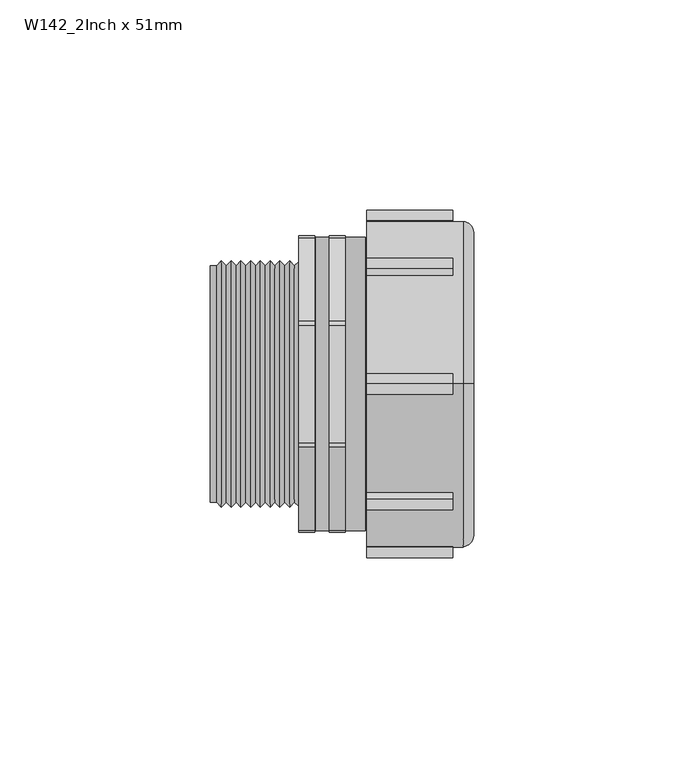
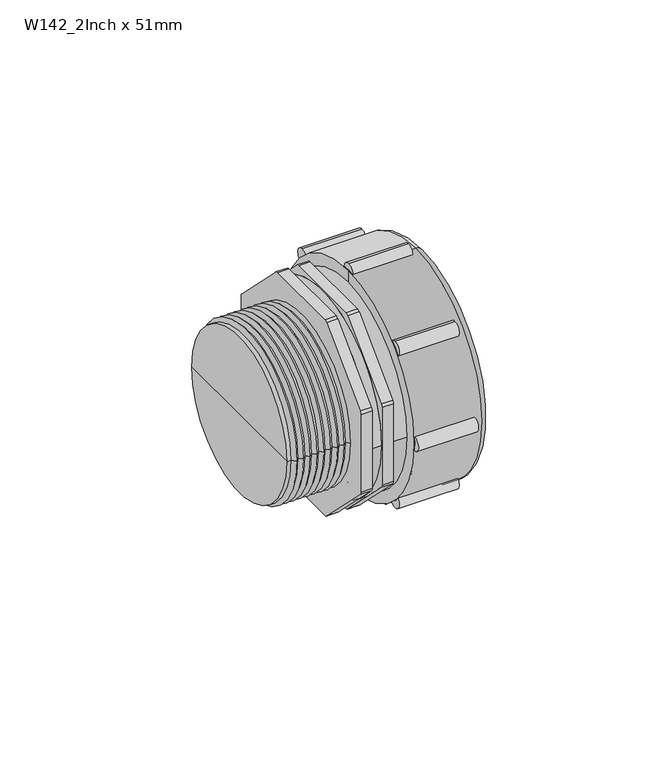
"""IFC4 building model written with IfcOpenShell, lengths in millimetres: pipe fitting geometry, Durapipe_PipeFitting_VulcatheneMechanical_MItoPipeCoupler_W14 : W142_2Inch x 51mm."""

from ifc_helpers import new_model, si_unit, point, frame, frame_2d, origin, place, context, project, spatial, polyline, circle_curve, ellipse_curve, trimmed, segment, composite_curve, outline, extrude, source, transform, mapped, element, save
from ifc_brep_helpers import plane_surface, cylinder_surface, revolved_surface, advanced_brep


def w142_2inch_x_51mm_82494a64(model_context):
    return source(origin(), model_context, "Body", "SolidModel", [
        advanced_brep(
        [(27.4, -22.839549, 22.839549), (27.4, 22.839549, -22.839549), (27.4, 21.2839141, -21.2839141), (27.4, -21.2839141, 21.2839141), (21.8, -22.3445743, 22.3445743), (21.8, 22.3445743, -22.3445743), (20.4, -21.9203102, 21.9203102), (20.4, 21.9203102, -21.9203102), (21.8, 21.9203102, -21.9203102), (21.8, -21.9203102, 21.9203102), (20.4, -20.9303607, 20.9303607), (20.4, 20.9303607, -20.9303607), (22.7, -20.9303607, 20.9303607), (22.7, 20.9303607, -20.9303607), (22.7, -20.647518, 20.647518), (22.7, 20.647518, -20.647518), (24.9, -21.2839141, 21.2839141), (24.9, 21.2839141, -21.2839141), (24.9, 20.647518, -20.647518), (24.9, -20.647518, 20.647518)],
        [
            (0, 1, circle_curve(frame((27.4, 0.0, 0.0), z_axis=(1.0, 0.0, 0.0), x_axis=(0.0, 0.7071067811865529, -0.7071067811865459)), 32.3)),
            (1, 2),
            (2, 3, circle_curve(frame((27.4, 0.0, 0.0), z_axis=(-1.0, 0.0, 0.0), x_axis=(0.0, 0.7071067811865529, -0.7071067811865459)), 30.1)),
            (3, 0),
            (1, 0, circle_curve(frame((27.4, 0.0, 0.0), z_axis=(1.0, 0.0, 0.0), x_axis=(0.0, 0.7071067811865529, -0.7071067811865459)), 32.3)),
            (3, 2, circle_curve(frame((27.4, 0.0, 0.0), z_axis=(-1.0, 0.0, 0.0), x_axis=(0.0, 0.7071067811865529, -0.7071067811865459)), 30.1)),
            (4, 5, circle_curve(frame((21.8, 0.0, 0.0), z_axis=(1.0, 0.0, 0.0), x_axis=(0.0, 0.7071067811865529, -0.7071067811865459)), 31.6)),
            (5, 1),
            (0, 4),
            (5, 4, circle_curve(frame((21.8, 0.0, 0.0), z_axis=(1.0, 0.0, 0.0), x_axis=(0.0, 0.7071067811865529, -0.7071067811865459)), 31.6)),
            (6, 7, circle_curve(frame((20.4, 0.0, 0.0), z_axis=(1.0, 0.0, 0.0), x_axis=(0.0, 0.7071067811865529, -0.7071067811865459)), 31.0)),
            (7, 8),
            (8, 9, circle_curve(frame((21.8, 0.0, 0.0), z_axis=(-1.0, 0.0, 0.0), x_axis=(0.0, 0.7071067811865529, -0.7071067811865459)), 31.0)),
            (9, 6),
            (7, 6, circle_curve(frame((20.4, 0.0, 0.0), z_axis=(1.0, 0.0, 0.0), x_axis=(0.0, 0.7071067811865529, -0.7071067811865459)), 31.0)),
            (9, 8, circle_curve(frame((21.8, 0.0, 0.0), z_axis=(-1.0, 0.0, 0.0), x_axis=(0.0, 0.7071067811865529, -0.7071067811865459)), 31.0)),
            (6, 10),
            (10, 11, circle_curve(frame((20.4, 0.0, 0.0), z_axis=(1.0, 0.0, 0.0), x_axis=(0.0, 0.7071067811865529, -0.7071067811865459)), 29.6)),
            (11, 7),
            (11, 10, circle_curve(frame((20.4, 0.0, 0.0), z_axis=(1.0, 0.0, 0.0), x_axis=(0.0, 0.7071067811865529, -0.7071067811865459)), 29.6)),
            (10, 12),
            (12, 13, circle_curve(frame((22.7, 0.0, 0.0), z_axis=(1.0, 0.0, 0.0), x_axis=(0.0, 0.7071067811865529, -0.7071067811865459)), 29.6)),
            (13, 11),
            (13, 12, circle_curve(frame((22.7, 0.0, 0.0), z_axis=(1.0, 0.0, 0.0), x_axis=(0.0, 0.7071067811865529, -0.7071067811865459)), 29.6)),
            (12, 14),
            (14, 15, circle_curve(frame((22.7, 0.0, 0.0), z_axis=(1.0, 0.0, 0.0), x_axis=(0.0, 0.7071067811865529, -0.7071067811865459)), 29.2)),
            (15, 13),
            (15, 14, circle_curve(frame((22.7, 0.0, 0.0), z_axis=(1.0, 0.0, 0.0), x_axis=(0.0, 0.7071067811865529, -0.7071067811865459)), 29.2)),
            (16, 17, circle_curve(frame((24.9, 0.0, 0.0), z_axis=(1.0, 0.0, 0.0), x_axis=(0.0, 0.7071067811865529, -0.7071067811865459)), 30.1)),
            (17, 18),
            (18, 19, circle_curve(frame((24.9, 0.0, 0.0), z_axis=(-1.0, 0.0, 0.0), x_axis=(0.0, 0.7071067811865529, -0.7071067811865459)), 29.2)),
            (19, 16),
            (17, 16, circle_curve(frame((24.9, 0.0, 0.0), z_axis=(1.0, 0.0, 0.0), x_axis=(0.0, 0.7071067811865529, -0.7071067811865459)), 30.1)),
            (19, 18, circle_curve(frame((24.9, 0.0, 0.0), z_axis=(-1.0, 0.0, 0.0), x_axis=(0.0, 0.7071067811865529, -0.7071067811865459)), 29.2)),
            (2, 17),
            (16, 3),
            (14, 19),
            (18, 15),
            (4, 9),
            (8, 5),
        ],
        [
            plane_surface(frame((27.4, 0.0, 0.0), z_axis=(1.0, 0.0, 0.0), x_axis=(0.0, 0.707106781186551, -0.707106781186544))),
            revolved_surface(polyline([(27.4, 22.839549, -22.839549), (21.8, 22.3445743, -22.3445743)]), (32.4, 0.0, 0.0), (-1.0000000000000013, 0.0, 0.0)),
            cylinder_surface(frame((18.3293443, 0.0, 0.0), z_axis=(-1.0000000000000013, 0.0, 0.0), x_axis=(0.0, 0.7071067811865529, -0.7071067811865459)), 31.0),
            plane_surface(frame((20.4, 0.0, 0.0), z_axis=(-1.0, 0.0, 0.0), x_axis=(0.0, 0.707106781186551, -0.707106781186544))),
            revolved_surface(polyline([(20.400000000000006, 20.930360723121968, -20.93036072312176), (22.700000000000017, 20.930360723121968, -20.93036072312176)]), (16.907009, 0.0, 0.0), (-1.0000000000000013, 0.0, 0.0)),
            plane_surface(frame((22.7, 0.0, 0.0), z_axis=(-1.0, 0.0, 0.0), x_axis=(0.0, 0.707106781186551, -0.707106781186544))),
            plane_surface(frame((24.9, 0.0, 0.0), z_axis=(1.0, 0.0, 0.0), x_axis=(0.0, 0.707106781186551, -0.707106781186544))),
            revolved_surface(polyline([(24.899999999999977, 21.283914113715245, -21.28391411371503), (27.399999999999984, 21.283914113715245, -21.28391411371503)]), (32.4, 0.0, 0.0), (-1.0000000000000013, 0.0, 0.0)),
            revolved_surface(polyline([(22.69999999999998, 20.647518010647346, -20.64751801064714), (24.899999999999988, 20.647518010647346, -20.64751801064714)]), (28.9661924, 0.0, 0.0), (-1.0000000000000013, 0.0, 0.0)),
            plane_surface(frame((21.8, 0.0, 0.0), z_axis=(-1.0, 0.0, 0.0), x_axis=(0.0, 0.707106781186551, -0.707106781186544))),
        ],
        [
            (0, [[1, 2, 3, 4]]),
            (0, [[-2, 5, -4, 6]]),
            (1, [[7, 8, -1, 9]]),
            (1, [[10, -9, -5, -8]]),
            (2, [[11, 12, 13, 14]]),
            (2, [[-12, 15, -14, 16]]),
            (3, [[-11, 17, 18, 19]]),
            (3, [[-15, -19, 20, -17]]),
            (4, [[21, 22, 23, -18]]),
            (4, [[-21, -20, -23, 24]]),
            (5, [[-22, 25, 26, 27]]),
            (5, [[-24, -27, 28, -25]]),
            (6, [[29, 30, 31, 32]]),
            (6, [[33, -32, 34, -30]]),
            (7, [[-3, 35, -29, 36]]),
            (7, [[-6, -36, -33, -35]]),
            (8, [[37, -31, 38, -26]]),
            (8, [[-37, -28, -38, -34]]),
            (9, [[-7, 39, -13, 40]]),
            (9, [[-10, -40, -16, -39]]),
        ],
    ),
        advanced_brep(
        [(5.9, 0.0, 38.8), (5.9, 0.0, -38.8), (28.8, 0.0, -38.8), (28.8, 0.0, 38.8), (5.9, 0.0, 33.0), (5.9, 0.0, -33.0), (31.3, 0.0, 36.3), (31.3, 0.0, -36.3), (31.3, 0.0, -31.0), (31.3, 0.0, 31.0), (27.4, 0.0, 33.0), (27.4, 0.0, -33.0), (27.4, 0.0, 31.0), (27.4, 0.0, -31.0)],
        [
            (0, 1, circle_curve(frame((5.9, 0.0, 0.0), z_axis=(1.0, 0.0, 0.0), x_axis=(0.0, 0.0, -1.0000000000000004)), 38.8)),
            (1, 2),
            (2, 3, circle_curve(frame((28.8, 0.0, 0.0), z_axis=(-1.0, 0.0, 0.0), x_axis=(0.0, 0.0, -1.0000000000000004)), 38.8)),
            (3, 0),
            (1, 0, circle_curve(frame((5.9, 0.0, 0.0), z_axis=(1.0, 0.0, 0.0), x_axis=(0.0, 0.0, -1.0000000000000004)), 38.8)),
            (3, 2, circle_curve(frame((28.8, 0.0, 0.0), z_axis=(-1.0, 0.0, 0.0), x_axis=(0.0, 0.0, -1.0000000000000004)), 38.8)),
            (4, 5, circle_curve(frame((5.9, 0.0, 0.0), z_axis=(1.0, 0.0, 0.0), x_axis=(0.0, 0.0, -1.0000000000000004)), 33.0)),
            (5, 1),
            (0, 4),
            (5, 4, circle_curve(frame((5.9, 0.0, 0.0), z_axis=(1.0, 0.0, 0.0), x_axis=(0.0, 0.0, -1.0000000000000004)), 33.0)),
            (6, 7, circle_curve(frame((31.3, 0.0, 0.0), z_axis=(1.0, 0.0, 0.0), x_axis=(0.0, 0.0, -1.0000000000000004)), 36.3)),
            (7, 8),
            (8, 9, circle_curve(frame((31.3, 0.0, 0.0), z_axis=(-1.0, 0.0, 0.0), x_axis=(0.0, 0.0, -1.0000000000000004)), 31.0)),
            (9, 6),
            (7, 6, circle_curve(frame((31.3, 0.0, 0.0), z_axis=(1.0, 0.0, 0.0), x_axis=(0.0, 0.0, -1.0000000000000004)), 36.3)),
            (9, 8, circle_curve(frame((31.3, 0.0, 0.0), z_axis=(-1.0, 0.0, 0.0), x_axis=(0.0, 0.0, -1.0000000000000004)), 31.0)),
            (2, 7, circle_curve(frame((28.8, 0.0, -36.3), z_axis=(0.0, -1.0000000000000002, 0.0), x_axis=(1.0000000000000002, 0.0, 0.0)), 2.5)),
            (6, 3, circle_curve(frame((28.8, 0.0, 36.3), z_axis=(0.0, -1.0000000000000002, 0.0), x_axis=(1.0000000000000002, 0.0, 0.0)), 2.5)),
            (10, 11, circle_curve(frame((27.4, 0.0, 0.0), z_axis=(1.0, 0.0, 0.0), x_axis=(0.0, 0.0, -1.0000000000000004)), 33.0)),
            (11, 5),
            (4, 10),
            (11, 10, circle_curve(frame((27.4, 0.0, 0.0), z_axis=(1.0, 0.0, 0.0), x_axis=(0.0, 0.0, -1.0000000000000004)), 33.0)),
            (12, 13, circle_curve(frame((27.4, 0.0, 0.0), z_axis=(1.0, 0.0, 0.0), x_axis=(0.0, 0.0, -1.0000000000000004)), 31.0)),
            (13, 11),
            (10, 12),
            (13, 12, circle_curve(frame((27.4, 0.0, 0.0), z_axis=(1.0, 0.0, 0.0), x_axis=(0.0, 0.0, -1.0000000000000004)), 31.0)),
            (8, 13),
            (12, 9),
        ],
        [
            cylinder_surface(frame((1592.1018184, 0.0, 0.0), z_axis=(-1.0000000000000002, 0.0, 0.0), x_axis=(0.0, 0.0, -1.0000000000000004)), 38.8),
            plane_surface(frame((5.9, 0.0, 0.0), z_axis=(-1.0, 0.0, 0.0), x_axis=(0.0, 0.0, -1.0))),
            plane_surface(frame((31.3, 0.0, 0.0), z_axis=(1.0, 0.0, 0.0), x_axis=(0.0, 0.0, -1.0))),
            revolved_surface(trimmed(ellipse_curve(frame((28.8, 0.0, -36.3), z_axis=(0.0, 1.0000000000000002, 0.0), x_axis=(1.0000000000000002, 0.0, 0.0)), 2.5, 2.5), [point((31.3, 0.0, -36.3))], [point((28.8, 0.0, -38.8))], True, "CARTESIAN"), (1592.1018184, 0.0, 0.0), (-1.0000000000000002, 0.0, 0.0)),
            revolved_surface(polyline([(5.8999999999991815, 0.0, -33.000000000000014), (27.39999999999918, 0.0, -33.000000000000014)]), (1592.1018184, 0.0, 0.0), (-1.0000000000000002, 0.0, 0.0)),
            plane_surface(frame((27.4, 0.0, 0.0), z_axis=(-1.0, 0.0, 0.0), x_axis=(0.0, 0.0, -1.0))),
            revolved_surface(polyline([(27.39999999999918, 0.0, -31.000000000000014), (31.299999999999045, 0.0, -31.000000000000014)]), (1592.1018184, 0.0, 0.0), (-1.0000000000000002, 0.0, 0.0)),
        ],
        [
            (0, [[1, 2, 3, 4]]),
            (0, [[5, -4, 6, -2]]),
            (1, [[7, 8, -1, 9]]),
            (1, [[10, -9, -5, -8]]),
            (2, [[11, 12, 13, 14]]),
            (2, [[15, -14, 16, -12]]),
            (3, [[-3, 17, -11, 18]]),
            (3, [[-6, -18, -15, -17]]),
            (4, [[19, 20, -7, 21]]),
            (4, [[22, -21, -10, -20]]),
            (5, [[23, 24, -19, 25]]),
            (5, [[26, -25, -22, -24]]),
            (6, [[-13, 27, -23, 28]]),
            (6, [[-16, -28, -26, -27]]),
        ],
    ),
        extrude(outline(composite_curve([segment(trimmed(circle_curve(frame_2d((38.8, 0.0)), 2.5), [point((38.8, 2.5))], [point((38.8, -2.5))], False, "CARTESIAN"), True, "CONTINUOUS"), segment(trimmed(circle_curve(frame_2d((38.8, 0.0)), 2.5), [point((38.8, -2.5))], [point((38.8, 2.5))], False, "CARTESIAN"), True, "CONTINUOUS")], self_intersect=False)), frame((5.9, 0.0, 0.0), z_axis=(1.0, 0.0, 0.0), x_axis=(0.0, 1.0, 0.0)), (0.0, 0.0, 1.0), 20.4),
        extrude(outline(composite_curve([segment(trimmed(circle_curve(frame_2d((27.4357431, -27.4357431)), 2.5), [point((27.4357431, -24.9357431))], [point((27.4357431, -29.9357431))], False, "CARTESIAN"), True, "CONTINUOUS"), segment(trimmed(circle_curve(frame_2d((27.4357431, -27.4357431)), 2.5), [point((27.4357431, -29.9357431))], [point((27.4357431, -24.9357431))], False, "CARTESIAN"), True, "CONTINUOUS")], self_intersect=False)), frame((5.9, 0.0, 0.0), z_axis=(1.0, 0.0, 0.0), x_axis=(0.0, 1.0, 0.0)), (0.0, 0.0, 1.0), 20.4),
        extrude(outline(composite_curve([segment(trimmed(circle_curve(frame_2d((0.0, -38.8)), 2.5), [point((0.0, -36.3))], [point((0.0, -41.3))], False, "CARTESIAN"), True, "CONTINUOUS"), segment(trimmed(circle_curve(frame_2d((0.0, -38.8)), 2.5), [point((0.0, -41.3))], [point((0.0, -36.3))], False, "CARTESIAN"), True, "CONTINUOUS")], self_intersect=False)), frame((5.9, 0.0, 0.0), z_axis=(1.0, 0.0, 0.0), x_axis=(0.0, 1.0, 0.0)), (0.0, 0.0, 1.0), 20.4),
        extrude(outline(composite_curve([segment(trimmed(circle_curve(frame_2d((-27.4357431, -27.4357431)), 2.5), [point((-27.4357431, -24.9357431))], [point((-27.4357431, -29.9357431))], False, "CARTESIAN"), True, "CONTINUOUS"), segment(trimmed(circle_curve(frame_2d((-27.4357431, -27.4357431)), 2.5), [point((-27.4357431, -29.9357431))], [point((-27.4357431, -24.9357431))], False, "CARTESIAN"), True, "CONTINUOUS")], self_intersect=False)), frame((5.9, 0.0, 0.0), z_axis=(1.0, 0.0, 0.0), x_axis=(0.0, 1.0, 0.0)), (0.0, 0.0, 1.0), 20.4),
        extrude(outline(composite_curve([segment(trimmed(circle_curve(frame_2d((-38.8, 0.0)), 2.5), [point((-38.8, 2.5))], [point((-38.8, -2.5))], False, "CARTESIAN"), True, "CONTINUOUS"), segment(trimmed(circle_curve(frame_2d((-38.8, 0.0)), 2.5), [point((-38.8, -2.5))], [point((-38.8, 2.5))], False, "CARTESIAN"), True, "CONTINUOUS")], self_intersect=False)), frame((5.9, 0.0, 0.0), z_axis=(1.0, 0.0, 0.0), x_axis=(0.0, 1.0, 0.0)), (0.0, 0.0, 1.0), 20.4),
        extrude(outline(composite_curve([segment(trimmed(circle_curve(frame_2d((-27.4357431, 27.4357431)), 2.5), [point((-27.4357431, 29.9357431))], [point((-27.4357431, 24.9357431))], False, "CARTESIAN"), True, "CONTINUOUS"), segment(trimmed(circle_curve(frame_2d((-27.4357431, 27.4357431)), 2.5), [point((-27.4357431, 24.9357431))], [point((-27.4357431, 29.9357431))], False, "CARTESIAN"), True, "CONTINUOUS")], self_intersect=False)), frame((5.9, 0.0, 0.0), z_axis=(1.0, 0.0, 0.0), x_axis=(0.0, 1.0, 0.0)), (0.0, 0.0, 1.0), 20.4),
        extrude(outline(composite_curve([segment(trimmed(circle_curve(frame_2d((0.0, 38.8)), 2.5), [point((0.0, 41.3))], [point((0.0, 36.3))], False, "CARTESIAN"), True, "CONTINUOUS"), segment(trimmed(circle_curve(frame_2d((0.0, 38.8)), 2.5), [point((0.0, 36.3))], [point((0.0, 41.3))], False, "CARTESIAN"), True, "CONTINUOUS")], self_intersect=False)), frame((5.9, 0.0, 0.0), z_axis=(1.0, 0.0, 0.0), x_axis=(0.0, 1.0, 0.0)), (0.0, 0.0, 1.0), 20.4),
        extrude(outline(composite_curve([segment(trimmed(circle_curve(frame_2d((27.4357431, 27.4357431)), 2.5), [point((27.4357431, 29.9357431))], [point((27.4357431, 24.9357431))], False, "CARTESIAN"), True, "CONTINUOUS"), segment(trimmed(circle_curve(frame_2d((27.4357431, 27.4357431)), 2.5), [point((27.4357431, 24.9357431))], [point((27.4357431, 29.9357431))], False, "CARTESIAN"), True, "CONTINUOUS")], self_intersect=False)), frame((5.9, 0.0, 0.0), z_axis=(1.0, 0.0, 0.0), x_axis=(0.0, 1.0, 0.0)), (0.0, 0.0, 1.0), 20.4),
        advanced_brep(
        [(-10.3, -15.0403679, 34.8106602), (-10.3, -13.9797077, 35.25), (-10.3, 13.9797077, 35.25), (-10.3, 15.0403679, 34.8106602), (-10.3, 34.8106602, 15.0403679), (-10.3, 35.25, 13.9797077), (-10.3, 35.25, -13.9797077), (-10.3, 34.8106602, -15.0403679), (-10.3, 15.0403679, -34.8106602), (-10.3, 13.9797077, -35.25), (-10.3, -13.9797077, -35.25), (-10.3, -15.0403679, -34.8106602), (-10.3, -34.8106602, -15.0403679), (-10.3, -35.25, -13.9797077), (-10.3, -35.25, 13.9797077), (-10.3, -34.8106602, 15.0403679), (-10.3, -29.1156954, 0.0), (-10.3, 29.1156954, 0.0), (-6.45, -15.0403679, 34.8106602), (-6.45, -34.8106602, 15.0403679), (-6.45, -35.25, 13.9797077), (-6.45, -35.25, -13.9797077), (-6.45, -34.8106602, -15.0403679), (-6.45, -15.0403679, -34.8106602), (-6.45, -13.9797077, -35.25), (-6.45, 13.9797077, -35.25), (-6.45, 15.0403679, -34.8106602), (-6.45, 34.8106602, -15.0403679), (-6.45, 35.25, -13.9797077), (-6.45, 35.25, 13.9797077), (-6.45, 34.8106602, 15.0403679), (-6.45, 15.0403679, 34.8106602), (-6.45, 13.9797077, 35.25), (-6.45, -13.9797077, 35.25), (-6.45, 29.2915153, 0.0), (-6.45, -29.2915153, 0.0), (0.8, -15.0403679, 34.8106602), (0.8, -34.8106602, 15.0403679), (0.8, -35.25, 13.9797077), (0.8, -35.25, -13.9797077), (0.8, -34.8106602, -15.0403679), (0.8, -15.0403679, -34.8106602), (0.8, -13.9797077, -35.25), (0.8, 13.9797077, -35.25), (0.8, 15.0403679, -34.8106602), (0.8, 34.8106602, -15.0403679), (0.8, 35.25, -13.9797077), (0.8, 35.25, 13.9797077), (0.8, 34.8106602, 15.0403679), (0.8, 15.0403679, 34.8106602), (0.8, 13.9797077, 35.25), (0.8, -13.9797077, 35.25), (0.8, 34.86, 0.0), (0.8, -34.86, 0.0), (-3.05, -15.0403679, 34.8106602), (-3.05, -13.9797077, 35.25), (-3.05, 13.9797077, 35.25), (-3.05, 15.0403679, 34.8106602), (-3.05, 34.8106602, 15.0403679), (-3.05, 35.25, 13.9797077), (-3.05, 35.25, -13.9797077), (-3.05, 34.8106602, -15.0403679), (-3.05, 15.0403679, -34.8106602), (-3.05, 13.9797077, -35.25), (-3.05, -13.9797077, -35.25), (-3.05, -15.0403679, -34.8106602), (-3.05, -34.8106602, -15.0403679), (-3.05, -35.25, -13.9797077), (-3.05, -35.25, 13.9797077), (-3.05, -34.8106602, 15.0403679), (-3.05, -34.86, 0.0), (-3.05, 34.86, 0.0), (-6.2, -29.2915153, 0.0), (-6.2, 29.2915153, 0.0), (-6.2, 34.86, 0.0), (-6.2, -34.86, 0.0), (-29.8, -28.1341141, 0.0), (-29.8, 28.1341141, 0.0), (-28.6425988, 29.2915153, 0.0), (-28.6425988, -29.2915153, 0.0), (-31.3, -28.1341141, 0.0), (-31.3, 28.1341141, 0.0), (-31.3, 0.0, 0.0), (5.57, -33.6998303, 0.0), (5.57, 33.6998303, 0.0), (6.0948472, 34.3035979, 0.0), (6.0948472, -34.3035979, 0.0), (5.57, -34.86, 0.0), (5.57, 34.86, 0.0), (-11.2815813, -28.1341141, 0.0), (-11.2815813, 28.1341141, 0.0), (-12.4389825, -29.2915153, 0.0), (-12.4389825, 29.2915153, 0.0), (-13.5963837, -28.1341141, 0.0), (-13.5963837, 28.1341141, 0.0), (-14.7537848, -29.2915153, 0.0), (-14.7537848, 29.2915153, 0.0), (-15.911186, -28.1341141, 0.0), (-15.911186, 28.1341141, 0.0), (-17.0685872, -29.2915153, 0.0), (-17.0685872, 29.2915153, 0.0), (-18.2259883, -28.1341141, 0.0), (-18.2259883, 28.1341141, 0.0), (-19.3833895, -29.2915153, 0.0), (-19.3833895, 29.2915153, 0.0), (-20.5407907, -28.1341141, 0.0), (-20.5407907, 28.1341141, 0.0), (-21.6981918, -29.2915153, 0.0), (-21.6981918, 29.2915153, 0.0), (-22.855593, -28.1341141, 0.0), (-22.855593, 28.1341141, 0.0), (-24.0129942, -29.2915153, 0.0), (-24.0129942, 29.2915153, 0.0), (-25.1703953, -28.1341141, 0.0), (-25.1703953, 28.1341141, 0.0), (-26.3277965, -29.2915153, 0.0), (-26.3277965, 29.2915153, 0.0), (-27.4851977, -28.1341141, 0.0), (-27.4851977, 28.1341141, 0.0), (6.0948472, 0.0, 0.0)],
        [
            (0, 1, circle_curve(frame((-10.3, -13.9797077, 33.75), z_axis=(-1.0, 0.0, 0.0), x_axis=(0.0, 1.0, 0.0)), 1.5)),
            (1, 2),
            (2, 3, circle_curve(frame((-10.3, 13.9797077, 33.75), z_axis=(-1.0, 0.0, 0.0), x_axis=(0.0, 1.0, 0.0)), 1.5)),
            (3, 4),
            (4, 5, circle_curve(frame((-10.3, 33.75, 13.9797077), z_axis=(-1.0, 0.0, 0.0), x_axis=(0.0, 1.0, 0.0)), 1.5)),
            (5, 6),
            (6, 7, circle_curve(frame((-10.3, 33.75, -13.9797077), z_axis=(-1.0, 0.0, 0.0), x_axis=(0.0, 1.0, 0.0)), 1.5)),
            (7, 8),
            (8, 9, circle_curve(frame((-10.3, 13.9797077, -33.75), z_axis=(-1.0, 0.0, 0.0), x_axis=(0.0, 1.0, 0.0)), 1.5)),
            (9, 10),
            (10, 11, circle_curve(frame((-10.3, -13.9797077, -33.75), z_axis=(-1.0, 0.0, 0.0), x_axis=(0.0, 1.0, 0.0)), 1.5)),
            (11, 12),
            (12, 13, circle_curve(frame((-10.3, -33.75, -13.9797077), z_axis=(-1.0, 0.0, 0.0), x_axis=(0.0, 1.0, 0.0)), 1.5)),
            (13, 14),
            (14, 15, circle_curve(frame((-10.3, -33.75, 13.9797077), z_axis=(-1.0, 0.0, 0.0), x_axis=(0.0, 1.0, 0.0)), 1.5)),
            (15, 0),
            (16, 17, circle_curve(frame((-10.3, 0.0, 0.0), z_axis=(1.0, 0.0, 0.0), x_axis=(0.0, 1.0, 0.0)), 29.1156954)),
            (17, 16, circle_curve(frame((-10.3, 0.0, 0.0), z_axis=(1.0, 0.0, 0.0), x_axis=(0.0, 1.0, 0.0)), 29.1156954)),
            (18, 19),
            (19, 20, circle_curve(frame((-6.45, -33.75, 13.9797077), z_axis=(1.0, 0.0, 0.0), x_axis=(0.0, 1.0, 0.0)), 1.5)),
            (20, 21),
            (21, 22, circle_curve(frame((-6.45, -33.75, -13.9797077), z_axis=(1.0, 0.0, 0.0), x_axis=(0.0, 1.0, 0.0)), 1.5)),
            (22, 23),
            (23, 24, circle_curve(frame((-6.45, -13.9797077, -33.75), z_axis=(1.0, 0.0, 0.0), x_axis=(0.0, 1.0, 0.0)), 1.5)),
            (24, 25),
            (25, 26, circle_curve(frame((-6.45, 13.9797077, -33.75), z_axis=(1.0, 0.0, 0.0), x_axis=(0.0, 1.0, 0.0)), 1.5)),
            (26, 27),
            (27, 28, circle_curve(frame((-6.45, 33.75, -13.9797077), z_axis=(1.0, 0.0, 0.0), x_axis=(0.0, 1.0, 0.0)), 1.5)),
            (28, 29),
            (29, 30, circle_curve(frame((-6.45, 33.75, 13.9797077), z_axis=(1.0, 0.0, 0.0), x_axis=(0.0, 1.0, 0.0)), 1.5)),
            (30, 31),
            (31, 32, circle_curve(frame((-6.45, 13.9797077, 33.75), z_axis=(1.0, 0.0, 0.0), x_axis=(0.0, 1.0, 0.0)), 1.5)),
            (32, 33),
            (33, 18, circle_curve(frame((-6.45, -13.9797077, 33.75), z_axis=(1.0, 0.0, 0.0), x_axis=(0.0, 1.0, 0.0)), 1.5)),
            (34, 35, circle_curve(frame((-6.45, 0.0, 0.0), z_axis=(-1.0, 0.0, 0.0), x_axis=(0.0, 1.0, 0.0)), 29.2915153)),
            (35, 34, circle_curve(frame((-6.45, 0.0, 0.0), z_axis=(-1.0, 0.0, 0.0), x_axis=(0.0, 1.0, 0.0)), 29.2915153)),
            (15, 19),
            (18, 0),
            (14, 20),
            (13, 21),
            (12, 22),
            (11, 23),
            (10, 24),
            (9, 25),
            (8, 26),
            (7, 27),
            (6, 28),
            (5, 29),
            (4, 30),
            (3, 31),
            (2, 32),
            (1, 33),
            (36, 37),
            (37, 38, circle_curve(frame((0.8, -33.75, 13.9797077), z_axis=(1.0, 0.0, 0.0), x_axis=(0.0, 1.0, 0.0)), 1.5)),
            (38, 39),
            (39, 40, circle_curve(frame((0.8, -33.75, -13.9797077), z_axis=(1.0, 0.0, 0.0), x_axis=(0.0, 1.0, 0.0)), 1.5)),
            (40, 41),
            (41, 42, circle_curve(frame((0.8, -13.9797077, -33.75), z_axis=(1.0, 0.0, 0.0), x_axis=(0.0, 1.0, 0.0)), 1.5)),
            (42, 43),
            (43, 44, circle_curve(frame((0.8, 13.9797077, -33.75), z_axis=(1.0, 0.0, 0.0), x_axis=(0.0, 1.0, 0.0)), 1.5)),
            (44, 45),
            (45, 46, circle_curve(frame((0.8, 33.75, -13.9797077), z_axis=(1.0, 0.0, 0.0), x_axis=(0.0, 1.0, 0.0)), 1.5)),
            (46, 47),
            (47, 48, circle_curve(frame((0.8, 33.75, 13.9797077), z_axis=(1.0, 0.0, 0.0), x_axis=(0.0, 1.0, 0.0)), 1.5)),
            (48, 49),
            (49, 50, circle_curve(frame((0.8, 13.9797077, 33.75), z_axis=(1.0, 0.0, 0.0), x_axis=(0.0, 1.0, 0.0)), 1.5)),
            (50, 51),
            (51, 36, circle_curve(frame((0.8, -13.9797077, 33.75), z_axis=(1.0, 0.0, 0.0), x_axis=(0.0, 1.0, 0.0)), 1.5)),
            (52, 53, circle_curve(frame((0.8, 0.0, 0.0), z_axis=(-1.0, 0.0, 0.0), x_axis=(0.0, 1.0, 0.0)), 34.86)),
            (53, 52, circle_curve(frame((0.8, 0.0, 0.0), z_axis=(-1.0, 0.0, 0.0), x_axis=(0.0, 1.0, 0.0)), 34.86)),
            (54, 55, circle_curve(frame((-3.05, -13.9797077, 33.75), z_axis=(-1.0, 0.0, 0.0), x_axis=(0.0, 1.0, 0.0)), 1.5)),
            (55, 56),
            (56, 57, circle_curve(frame((-3.05, 13.9797077, 33.75), z_axis=(-1.0, 0.0, 0.0), x_axis=(0.0, 1.0, 0.0)), 1.5)),
            (57, 58),
            (58, 59, circle_curve(frame((-3.05, 33.75, 13.9797077), z_axis=(-1.0, 0.0, 0.0), x_axis=(0.0, 1.0, 0.0)), 1.5)),
            (59, 60),
            (60, 61, circle_curve(frame((-3.05, 33.75, -13.9797077), z_axis=(-1.0, 0.0, 0.0), x_axis=(0.0, 1.0, 0.0)), 1.5)),
            (61, 62),
            (62, 63, circle_curve(frame((-3.05, 13.9797077, -33.75), z_axis=(-1.0, 0.0, 0.0), x_axis=(0.0, 1.0, 0.0)), 1.5)),
            (63, 64),
            (64, 65, circle_curve(frame((-3.05, -13.9797077, -33.75), z_axis=(-1.0, 0.0, 0.0), x_axis=(0.0, 1.0, 0.0)), 1.5)),
            (65, 66),
            (66, 67, circle_curve(frame((-3.05, -33.75, -13.9797077), z_axis=(-1.0, 0.0, 0.0), x_axis=(0.0, 1.0, 0.0)), 1.5)),
            (67, 68),
            (68, 69, circle_curve(frame((-3.05, -33.75, 13.9797077), z_axis=(-1.0, 0.0, 0.0), x_axis=(0.0, 1.0, 0.0)), 1.5)),
            (69, 54),
            (70, 71, circle_curve(frame((-3.05, 0.0, 0.0), z_axis=(1.0, 0.0, 0.0), x_axis=(0.0, 1.0, 0.0)), 34.86)),
            (71, 70, circle_curve(frame((-3.05, 0.0, 0.0), z_axis=(1.0, 0.0, 0.0), x_axis=(0.0, 1.0, 0.0)), 34.86)),
            (36, 54),
            (69, 37),
            (68, 38),
            (67, 39),
            (66, 40),
            (65, 41),
            (64, 42),
            (63, 43),
            (62, 44),
            (61, 45),
            (60, 46),
            (59, 47),
            (58, 48),
            (57, 49),
            (56, 50),
            (55, 51),
            (72, 73, circle_curve(frame((-6.2, 0.0, 0.0), z_axis=(1.0, 0.0, 0.0), x_axis=(0.0, 1.0, 0.0)), 29.2915153)),
            (73, 74),
            (74, 75, circle_curve(frame((-6.2, 0.0, 0.0), z_axis=(-1.0, 0.0, 0.0), x_axis=(0.0, 1.0, 0.0)), 34.86)),
            (75, 72),
            (73, 72, circle_curve(frame((-6.2, 0.0, 0.0), z_axis=(1.0, 0.0, 0.0), x_axis=(0.0, 1.0, 0.0)), 29.2915153)),
            (75, 74, circle_curve(frame((-6.2, 0.0, 0.0), z_axis=(-1.0, 0.0, 0.0), x_axis=(0.0, 1.0, 0.0)), 34.86)),
            (72, 35),
            (34, 73),
            (76, 77, circle_curve(frame((-29.8, 0.0, 0.0), z_axis=(1.0, 0.0, 0.0), x_axis=(0.0, 1.0, 0.0)), 28.1341141)),
            (77, 78),
            (78, 79, circle_curve(frame((-28.6425988, 0.0, 0.0), z_axis=(-1.0, 0.0, 0.0), x_axis=(0.0, 1.0, 0.0)), 29.2915153)),
            (79, 76),
            (77, 76, circle_curve(frame((-29.8, 0.0, 0.0), z_axis=(1.0, 0.0, 0.0), x_axis=(0.0, 1.0, 0.0)), 28.1341141)),
            (79, 78, circle_curve(frame((-28.6425988, 0.0, 0.0), z_axis=(-1.0, 0.0, 0.0), x_axis=(0.0, 1.0, 0.0)), 29.2915153)),
            (76, 80),
            (80, 81, circle_curve(frame((-31.3, 0.0, 0.0), z_axis=(1.0, 0.0, 0.0), x_axis=(0.0, 1.0, 0.0)), 28.1341141)),
            (81, 77),
            (81, 80, circle_curve(frame((-31.3, 0.0, 0.0), z_axis=(1.0, 0.0, 0.0), x_axis=(0.0, 1.0, 0.0)), 28.1341141)),
            (80, 82),
            (82, 81),
            (83, 84, circle_curve(frame((5.57, 0.0, 0.0), z_axis=(1.0, 0.0, 0.0), x_axis=(0.0, 1.0, 0.0)), 33.6998303)),
            (84, 85),
            (85, 86, circle_curve(frame((6.0948472, 0.0, 0.0), z_axis=(-1.0, 0.0, 0.0), x_axis=(0.0, 1.0, 0.0)), 34.3035979)),
            (86, 83),
            (84, 83, circle_curve(frame((5.57, 0.0, 0.0), z_axis=(1.0, 0.0, 0.0), x_axis=(0.0, 1.0, 0.0)), 33.6998303)),
            (86, 85, circle_curve(frame((6.0948472, 0.0, 0.0), z_axis=(-1.0, 0.0, 0.0), x_axis=(0.0, 1.0, 0.0)), 34.3035979)),
            (83, 87),
            (87, 88, circle_curve(frame((5.57, 0.0, 0.0), z_axis=(1.0, 0.0, 0.0), x_axis=(0.0, 1.0, 0.0)), 34.86)),
            (88, 84),
            (88, 87, circle_curve(frame((5.57, 0.0, 0.0), z_axis=(1.0, 0.0, 0.0), x_axis=(0.0, 1.0, 0.0)), 34.86)),
            (74, 71),
            (70, 75),
            (87, 53),
            (52, 88),
            (89, 90, circle_curve(frame((-11.2815813, 0.0, 0.0), z_axis=(1.0, 0.0, 0.0), x_axis=(0.0, 1.0, 0.0)), 28.1341141)),
            (90, 17),
            (16, 89),
            (90, 89, circle_curve(frame((-11.2815813, 0.0, 0.0), z_axis=(1.0, 0.0, 0.0), x_axis=(0.0, 1.0, 0.0)), 28.1341141)),
            (89, 91),
            (91, 92, circle_curve(frame((-12.4389825, 0.0, 0.0), z_axis=(1.0, 0.0, 0.0), x_axis=(0.0, 1.0, 0.0)), 29.2915153)),
            (92, 90),
            (92, 91, circle_curve(frame((-12.4389825, 0.0, 0.0), z_axis=(1.0, 0.0, 0.0), x_axis=(0.0, 1.0, 0.0)), 29.2915153)),
            (91, 93),
            (93, 94, circle_curve(frame((-13.5963837, 0.0, 0.0), z_axis=(1.0, 0.0, 0.0), x_axis=(0.0, 1.0, 0.0)), 28.1341141)),
            (94, 92),
            (94, 93, circle_curve(frame((-13.5963837, 0.0, 0.0), z_axis=(1.0, 0.0, 0.0), x_axis=(0.0, 1.0, 0.0)), 28.1341141)),
            (93, 95),
            (95, 96, circle_curve(frame((-14.7537848, 0.0, 0.0), z_axis=(1.0, 0.0, 0.0), x_axis=(0.0, 1.0, 0.0)), 29.2915153)),
            (96, 94),
            (96, 95, circle_curve(frame((-14.7537848, 0.0, 0.0), z_axis=(1.0, 0.0, 0.0), x_axis=(0.0, 1.0, 0.0)), 29.2915153)),
            (95, 97),
            (97, 98, circle_curve(frame((-15.911186, 0.0, 0.0), z_axis=(1.0, 0.0, 0.0), x_axis=(0.0, 1.0, 0.0)), 28.1341141)),
            (98, 96),
            (98, 97, circle_curve(frame((-15.911186, 0.0, 0.0), z_axis=(1.0, 0.0, 0.0), x_axis=(0.0, 1.0, 0.0)), 28.1341141)),
            (97, 99),
            (99, 100, circle_curve(frame((-17.0685872, 0.0, 0.0), z_axis=(1.0, 0.0, 0.0), x_axis=(0.0, 1.0, 0.0)), 29.2915153)),
            (100, 98),
            (100, 99, circle_curve(frame((-17.0685872, 0.0, 0.0), z_axis=(1.0, 0.0, 0.0), x_axis=(0.0, 1.0, 0.0)), 29.2915153)),
            (99, 101),
            (101, 102, circle_curve(frame((-18.2259883, 0.0, 0.0), z_axis=(1.0, 0.0, 0.0), x_axis=(0.0, 1.0, 0.0)), 28.1341141)),
            (102, 100),
            (102, 101, circle_curve(frame((-18.2259883, 0.0, 0.0), z_axis=(1.0, 0.0, 0.0), x_axis=(0.0, 1.0, 0.0)), 28.1341141)),
            (101, 103),
            (103, 104, circle_curve(frame((-19.3833895, 0.0, 0.0), z_axis=(1.0, 0.0, 0.0), x_axis=(0.0, 1.0, 0.0)), 29.2915153)),
            (104, 102),
            (104, 103, circle_curve(frame((-19.3833895, 0.0, 0.0), z_axis=(1.0, 0.0, 0.0), x_axis=(0.0, 1.0, 0.0)), 29.2915153)),
            (103, 105),
            (105, 106, circle_curve(frame((-20.5407907, 0.0, 0.0), z_axis=(1.0, 0.0, 0.0), x_axis=(0.0, 1.0, 0.0)), 28.1341141)),
            (106, 104),
            (106, 105, circle_curve(frame((-20.5407907, 0.0, 0.0), z_axis=(1.0, 0.0, 0.0), x_axis=(0.0, 1.0, 0.0)), 28.1341141)),
            (105, 107),
            (107, 108, circle_curve(frame((-21.6981918, 0.0, 0.0), z_axis=(1.0, 0.0, 0.0), x_axis=(0.0, 1.0, 0.0)), 29.2915153)),
            (108, 106),
            (108, 107, circle_curve(frame((-21.6981918, 0.0, 0.0), z_axis=(1.0, 0.0, 0.0), x_axis=(0.0, 1.0, 0.0)), 29.2915153)),
            (107, 109),
            (109, 110, circle_curve(frame((-22.855593, 0.0, 0.0), z_axis=(1.0, 0.0, 0.0), x_axis=(0.0, 1.0, 0.0)), 28.1341141)),
            (110, 108),
            (110, 109, circle_curve(frame((-22.855593, 0.0, 0.0), z_axis=(1.0, 0.0, 0.0), x_axis=(0.0, 1.0, 0.0)), 28.1341141)),
            (109, 111),
            (111, 112, circle_curve(frame((-24.0129942, 0.0, 0.0), z_axis=(1.0, 0.0, 0.0), x_axis=(0.0, 1.0, 0.0)), 29.2915153)),
            (112, 110),
            (112, 111, circle_curve(frame((-24.0129942, 0.0, 0.0), z_axis=(1.0, 0.0, 0.0), x_axis=(0.0, 1.0, 0.0)), 29.2915153)),
            (111, 113),
            (113, 114, circle_curve(frame((-25.1703953, 0.0, 0.0), z_axis=(1.0, 0.0, 0.0), x_axis=(0.0, 1.0, 0.0)), 28.1341141)),
            (114, 112),
            (114, 113, circle_curve(frame((-25.1703953, 0.0, 0.0), z_axis=(1.0, 0.0, 0.0), x_axis=(0.0, 1.0, 0.0)), 28.1341141)),
            (113, 115),
            (115, 116, circle_curve(frame((-26.3277965, 0.0, 0.0), z_axis=(1.0, 0.0, 0.0), x_axis=(0.0, 1.0, 0.0)), 29.2915153)),
            (116, 114),
            (116, 115, circle_curve(frame((-26.3277965, 0.0, 0.0), z_axis=(1.0, 0.0, 0.0), x_axis=(0.0, 1.0, 0.0)), 29.2915153)),
            (115, 117),
            (117, 118, circle_curve(frame((-27.4851977, 0.0, 0.0), z_axis=(1.0, 0.0, 0.0), x_axis=(0.0, 1.0, 0.0)), 28.1341141)),
            (118, 116),
            (118, 117, circle_curve(frame((-27.4851977, 0.0, 0.0), z_axis=(1.0, 0.0, 0.0), x_axis=(0.0, 1.0, 0.0)), 28.1341141)),
            (78, 118),
            (117, 79),
            (85, 119),
            (119, 86),
        ],
        [
            plane_surface(frame((-10.3, -34.8106602, 15.0403679), z_axis=(-1.0, 0.0, 0.0), x_axis=(0.0, 0.707106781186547, 0.707106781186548))),
            plane_surface(frame((-6.45, -34.8106602, 15.0403679), z_axis=(1.0, 0.0, 0.0), x_axis=(0.0, -0.707106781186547, -0.707106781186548))),
            plane_surface(frame((-6.45, -15.0403679, 34.8106602), z_axis=(0.0, -0.707106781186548, 0.707106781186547), x_axis=(-1.0, 0.0, 0.0))),
            cylinder_surface(frame((-10.3, -33.75, 13.9797077), z_axis=(1.0, 0.0, 0.0), x_axis=(0.0, 1.0, 0.0)), 1.5),
            plane_surface(frame((-6.45, -35.25, 13.9797077), z_axis=(0.0, -1.0, 0.0), x_axis=(-1.0, 0.0, 0.0))),
            cylinder_surface(frame((-10.3, -33.75, -13.9797077), z_axis=(1.0, 0.0, 0.0), x_axis=(0.0, 1.0, 0.0)), 1.5),
            plane_surface(frame((-6.45, -34.8106602, -15.0403679), z_axis=(0.0, -0.7071067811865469, -0.7071067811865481), x_axis=(-1.0, 0.0, 0.0))),
            cylinder_surface(frame((-10.3, -13.9797077, -33.75), z_axis=(1.0, 0.0, 0.0), x_axis=(0.0, 1.0, 0.0)), 1.5),
            plane_surface(frame((-6.45, -13.9797077, -35.25), z_axis=(0.0, 0.0, -1.0), x_axis=(-1.0, 0.0, 0.0))),
            cylinder_surface(frame((-10.3, 13.9797077, -33.75), z_axis=(1.0, 0.0, 0.0), x_axis=(0.0, 1.0, 0.0)), 1.5),
            plane_surface(frame((-6.45, 15.0403679, -34.8106602), z_axis=(0.0, 0.7071067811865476, -0.7071067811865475), x_axis=(-1.0, 0.0, 0.0))),
            cylinder_surface(frame((-10.3, 33.75, -13.9797077), z_axis=(1.0, 0.0, 0.0), x_axis=(0.0, 1.0, 0.0)), 1.5),
            plane_surface(frame((-6.45, 35.25, -13.9797077), z_axis=(0.0, 1.0, 0.0), x_axis=(-1.0, 0.0, 0.0))),
            cylinder_surface(frame((-10.3, 33.75, 13.9797077), z_axis=(1.0, 0.0, 0.0), x_axis=(0.0, 1.0, 0.0)), 1.5),
            plane_surface(frame((-6.45, 34.8106602, 15.0403679), z_axis=(0.0, 0.7071067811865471, 0.707106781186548), x_axis=(-1.0, 0.0, 0.0))),
            cylinder_surface(frame((-10.3, 13.9797077, 33.75), z_axis=(1.0, 0.0, 0.0), x_axis=(0.0, 1.0, 0.0)), 1.5),
            plane_surface(frame((-6.45, 13.9797077, 35.25), z_axis=(0.0, 0.0, 1.0), x_axis=(-1.0, 0.0, 0.0))),
            cylinder_surface(frame((-10.3, -13.9797077, 33.75), z_axis=(1.0, 0.0, 0.0), x_axis=(0.0, 1.0, 0.0)), 1.5),
            plane_surface(frame((0.8, -34.8106602, 15.0403679), z_axis=(1.0, 0.0, 0.0), x_axis=(0.0, -0.707106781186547, -0.707106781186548))),
            plane_surface(frame((-3.05, -34.8106602, 15.0403679), z_axis=(-1.0, 0.0, 0.0), x_axis=(0.0, 0.707106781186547, 0.707106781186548))),
            plane_surface(frame((0.8, -15.0403679, 34.8106602), z_axis=(0.0, -0.707106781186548, 0.707106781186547), x_axis=(-1.0, 0.0, 0.0))),
            cylinder_surface(frame((-3.05, -33.75, 13.9797077), z_axis=(1.0, 0.0, 0.0), x_axis=(0.0, 1.0, 0.0)), 1.5),
            plane_surface(frame((0.8, -35.25, 13.9797077), z_axis=(0.0, -1.0, 0.0), x_axis=(-1.0, 0.0, 0.0))),
            cylinder_surface(frame((-3.05, -33.75, -13.9797077), z_axis=(1.0, 0.0, 0.0), x_axis=(0.0, 1.0, 0.0)), 1.5),
            plane_surface(frame((0.8, -34.8106602, -15.0403679), z_axis=(0.0, -0.7071067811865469, -0.7071067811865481), x_axis=(-1.0, 0.0, 0.0))),
            cylinder_surface(frame((-3.05, -13.9797077, -33.75), z_axis=(1.0, 0.0, 0.0), x_axis=(0.0, 1.0, 0.0)), 1.5),
            plane_surface(frame((0.8, -13.9797077, -35.25), z_axis=(0.0, 0.0, -1.0), x_axis=(-1.0, 0.0, 0.0))),
            cylinder_surface(frame((-3.05, 13.9797077, -33.75), z_axis=(1.0, 0.0, 0.0), x_axis=(0.0, 1.0, 0.0)), 1.5),
            plane_surface(frame((0.8, 15.0403679, -34.8106602), z_axis=(0.0, 0.7071067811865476, -0.7071067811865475), x_axis=(-1.0, 0.0, 0.0))),
            cylinder_surface(frame((-3.05, 33.75, -13.9797077), z_axis=(1.0, 0.0, 0.0), x_axis=(0.0, 1.0, 0.0)), 1.5),
            plane_surface(frame((0.8, 35.25, -13.9797077), z_axis=(0.0, 1.0, 0.0), x_axis=(-1.0, 0.0, 0.0))),
            cylinder_surface(frame((-3.05, 33.75, 13.9797077), z_axis=(1.0, 0.0, 0.0), x_axis=(0.0, 1.0, 0.0)), 1.5),
            plane_surface(frame((0.8, 34.8106602, 15.0403679), z_axis=(0.0, 0.7071067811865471, 0.707106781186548), x_axis=(-1.0, 0.0, 0.0))),
            cylinder_surface(frame((-3.05, 13.9797077, 33.75), z_axis=(1.0, 0.0, 0.0), x_axis=(0.0, 1.0, 0.0)), 1.5),
            plane_surface(frame((0.8, 13.9797077, 35.25), z_axis=(0.0, 0.0, 1.0), x_axis=(-1.0, 0.0, 0.0))),
            cylinder_surface(frame((-3.05, -13.9797077, 33.75), z_axis=(1.0, 0.0, 0.0), x_axis=(0.0, 1.0, 0.0)), 1.5),
            plane_surface(frame((-6.2, 0.0, 0.0), z_axis=(-1.0, 0.0, 0.0), x_axis=(0.0, 1.0, 0.0))),
            cylinder_surface(frame((-35.3795442, 0.0, 0.0), z_axis=(-1.0, 0.0, 0.0), x_axis=(0.0, 1.0, 0.0)), 29.2915153),
            revolved_surface(polyline([(-28.6425988, 29.2915153, 0.0), (-29.8, 28.1341141, 0.0)]), (-35.3795442, 0.0, 0.0), (-1.0, 0.0, 0.0)),
            cylinder_surface(frame((-35.3795442, 0.0, 0.0), z_axis=(-1.0, 0.0, 0.0), x_axis=(0.0, 1.0, 0.0)), 28.1341141),
            plane_surface(frame((-31.3, 0.0, 0.0), z_axis=(-1.0, 0.0, 0.0), x_axis=(0.0, 1.0, 0.0))),
            revolved_surface(polyline([(6.0948472, 34.3035979, 0.0), (5.57, 33.6998303, 0.0)]), (-35.3795442, 0.0, 0.0), (-1.0, 0.0, 0.0)),
            plane_surface(frame((5.57, 0.0, 0.0), z_axis=(1.0, 0.0, 0.0), x_axis=(0.0, 1.0, 0.0))),
            cylinder_surface(frame((-35.3795442, 0.0, 0.0), z_axis=(-1.0, 0.0, 0.0), x_axis=(0.0, 1.0, 0.0)), 34.86),
            revolved_surface(polyline([(-10.1241802, 29.2915153, 0.0), (-11.2815813, 28.1341141, 0.0)]), (-35.3795442, 0.0, 0.0), (-1.0, 0.0, 0.0)),
            revolved_surface(polyline([(-11.2815813, 28.1341141, 0.0), (-12.4389825, 29.2915153, 0.0)]), (-35.3795442, 0.0, 0.0), (-1.0, 0.0, 0.0)),
            revolved_surface(polyline([(-12.4389825, 29.2915153, 0.0), (-13.5963837, 28.1341141, 0.0)]), (-35.3795442, 0.0, 0.0), (-1.0, 0.0, 0.0)),
            revolved_surface(polyline([(-13.5963837, 28.1341141, 0.0), (-14.7537848, 29.2915153, 0.0)]), (-35.3795442, 0.0, 0.0), (-1.0, 0.0, 0.0)),
            revolved_surface(polyline([(-14.7537848, 29.2915153, 0.0), (-15.911186, 28.1341141, 0.0)]), (-35.3795442, 0.0, 0.0), (-1.0, 0.0, 0.0)),
            revolved_surface(polyline([(-15.911186, 28.1341141, 0.0), (-17.0685872, 29.2915153, 0.0)]), (-35.3795442, 0.0, 0.0), (-1.0, 0.0, 0.0)),
            revolved_surface(polyline([(-17.0685872, 29.2915153, 0.0), (-18.2259883, 28.1341141, 0.0)]), (-35.3795442, 0.0, 0.0), (-1.0, 0.0, 0.0)),
            revolved_surface(polyline([(-18.2259883, 28.1341141, 0.0), (-19.3833895, 29.2915153, 0.0)]), (-35.3795442, 0.0, 0.0), (-1.0, 0.0, 0.0)),
            revolved_surface(polyline([(-19.3833895, 29.2915153, 0.0), (-20.5407907, 28.1341141, 0.0)]), (-35.3795442, 0.0, 0.0), (-1.0, 0.0, 0.0)),
            revolved_surface(polyline([(-20.5407907, 28.1341141, 0.0), (-21.6981918, 29.2915153, 0.0)]), (-35.3795442, 0.0, 0.0), (-1.0, 0.0, 0.0)),
            revolved_surface(polyline([(-21.6981918, 29.2915153, 0.0), (-22.855593, 28.1341141, 0.0)]), (-35.3795442, 0.0, 0.0), (-1.0, 0.0, 0.0)),
            revolved_surface(polyline([(-22.855593, 28.1341141, 0.0), (-24.0129942, 29.2915153, 0.0)]), (-35.3795442, 0.0, 0.0), (-1.0, 0.0, 0.0)),
            revolved_surface(polyline([(-24.0129942, 29.2915153, 0.0), (-25.1703953, 28.1341141, 0.0)]), (-35.3795442, 0.0, 0.0), (-1.0, 0.0, 0.0)),
            revolved_surface(polyline([(-25.1703953, 28.1341141, 0.0), (-26.3277965, 29.2915153, 0.0)]), (-35.3795442, 0.0, 0.0), (-1.0, 0.0, 0.0)),
            revolved_surface(polyline([(-26.3277965, 29.2915153, 0.0), (-27.4851977, 28.1341141, 0.0)]), (-35.3795442, 0.0, 0.0), (-1.0, 0.0, 0.0)),
            revolved_surface(polyline([(-27.4851977, 28.1341141, 0.0), (-28.6425988, 29.2915153, 0.0)]), (-35.3795442, 0.0, 0.0), (-1.0, 0.0, 0.0)),
            plane_surface(frame((6.0948472, 0.0, 0.0), z_axis=(1.0, 0.0, 0.0), x_axis=(0.0, 1.0, 0.0))),
        ],
        [
            (0, [[1, 2, 3, 4, 5, 6, 7, 8, 9, 10, 11, 12, 13, 14, 15, 16], [17, 18]]),
            (1, [[19, 20, 21, 22, 23, 24, 25, 26, 27, 28, 29, 30, 31, 32, 33, 34], [35, 36]]),
            (2, [[-16, 37, -19, 38]]),
            (3, [[-15, 39, -20, -37]]),
            (4, [[-14, 40, -21, -39]]),
            (5, [[-13, 41, -22, -40]]),
            (6, [[-12, 42, -23, -41]]),
            (7, [[-11, 43, -24, -42]]),
            (8, [[-10, 44, -25, -43]]),
            (9, [[-9, 45, -26, -44]]),
            (10, [[-8, 46, -27, -45]]),
            (11, [[-7, 47, -28, -46]]),
            (12, [[-6, 48, -29, -47]]),
            (13, [[-5, 49, -30, -48]]),
            (14, [[-4, 50, -31, -49]]),
            (15, [[-3, 51, -32, -50]]),
            (16, [[-2, 52, -33, -51]]),
            (17, [[-1, -38, -34, -52]]),
            (18, [[53, 54, 55, 56, 57, 58, 59, 60, 61, 62, 63, 64, 65, 66, 67, 68], [69, 70]]),
            (19, [[71, 72, 73, 74, 75, 76, 77, 78, 79, 80, 81, 82, 83, 84, 85, 86], [87, 88]]),
            (20, [[-53, 89, -86, 90]]),
            (21, [[-54, -90, -85, 91]]),
            (22, [[-55, -91, -84, 92]]),
            (23, [[-56, -92, -83, 93]]),
            (24, [[-57, -93, -82, 94]]),
            (25, [[-58, -94, -81, 95]]),
            (26, [[-59, -95, -80, 96]]),
            (27, [[-60, -96, -79, 97]]),
            (28, [[-61, -97, -78, 98]]),
            (29, [[-62, -98, -77, 99]]),
            (30, [[-63, -99, -76, 100]]),
            (31, [[-64, -100, -75, 101]]),
            (32, [[-65, -101, -74, 102]]),
            (33, [[-66, -102, -73, 103]]),
            (34, [[-67, -103, -72, 104]]),
            (35, [[-68, -104, -71, -89]]),
            (36, [[105, 106, 107, 108]]),
            (36, [[-106, 109, -108, 110]]),
            (37, [[-105, 111, -35, 112]]),
            (37, [[-109, -112, -36, -111]]),
            (38, [[113, 114, 115, 116]]),
            (38, [[-114, 117, -116, 118]]),
            (39, [[-113, 119, 120, 121]]),
            (39, [[-117, -121, 122, -119]]),
            (40, [[-120, 123, 124]]),
            (40, [[-122, -124, -123]]),
            (41, [[125, 126, 127, 128]]),
            (41, [[-126, 129, -128, 130]]),
            (42, [[-125, 131, 132, 133]]),
            (42, [[-129, -133, 134, -131]]),
            (43, [[-107, 135, -87, 136]]),
            (43, [[-132, 137, -69, 138]]),
            (43, [[-110, -136, -88, -135]]),
            (43, [[-134, -138, -70, -137]]),
            (44, [[139, 140, -17, 141]]),
            (44, [[142, -141, -18, -140]]),
            (45, [[-139, 143, 144, 145]]),
            (45, [[-142, -145, 146, -143]]),
            (46, [[-144, 147, 148, 149]]),
            (46, [[-146, -149, 150, -147]]),
            (47, [[-148, 151, 152, 153]]),
            (47, [[-150, -153, 154, -151]]),
            (48, [[-152, 155, 156, 157]]),
            (48, [[-154, -157, 158, -155]]),
            (49, [[-156, 159, 160, 161]]),
            (49, [[-158, -161, 162, -159]]),
            (50, [[-160, 163, 164, 165]]),
            (50, [[-162, -165, 166, -163]]),
            (51, [[-164, 167, 168, 169]]),
            (51, [[-166, -169, 170, -167]]),
            (52, [[-168, 171, 172, 173]]),
            (52, [[-170, -173, 174, -171]]),
            (53, [[-172, 175, 176, 177]]),
            (53, [[-174, -177, 178, -175]]),
            (54, [[-176, 179, 180, 181]]),
            (54, [[-178, -181, 182, -179]]),
            (55, [[-180, 183, 184, 185]]),
            (55, [[-182, -185, 186, -183]]),
            (56, [[-184, 187, 188, 189]]),
            (56, [[-186, -189, 190, -187]]),
            (57, [[-188, 191, 192, 193]]),
            (57, [[-190, -193, 194, -191]]),
            (58, [[-192, 195, 196, 197]]),
            (58, [[-194, -197, 198, -195]]),
            (59, [[-115, 199, -196, 200]]),
            (59, [[-118, -200, -198, -199]]),
            (60, [[-127, 201, 202]]),
            (60, [[-130, -202, -201]]),
        ],
    ),
    ])


if __name__ == "__main__":
    model = new_model("IFC4")
    model_context = context("Model", 3, world=origin())
    ifc_project = project(units=[si_unit("LENGTHUNIT", "METRE", prefix="MILLI")], contexts=[model_context])
    site = spatial("IfcSite", under=ifc_project)
    building = spatial("IfcBuilding", under=site)
    placement = place(None, origin())
    w142_2inch_x_51mm_shape = w142_2inch_x_51mm_82494a64(model_context)
    element("IfcPipeFitting", 1, ObjectType="Durapipe_PipeFitting_VulcatheneMechanical_MItoPipeCoupler_W14 : W142_2Inch x 51mm", at=placement, inside=building, context=model_context, shape_type="MappedRepresentation", body=[
        mapped(w142_2inch_x_51mm_shape, transform((0.0, 0.0, 0.0), x_axis=(1.0, 0.0, 0.0), y_axis=(0.0, 1.0, 0.0), z_axis=(0.0, 0.0, 1.0))),
    ])
    save(model, "model.ifc")
